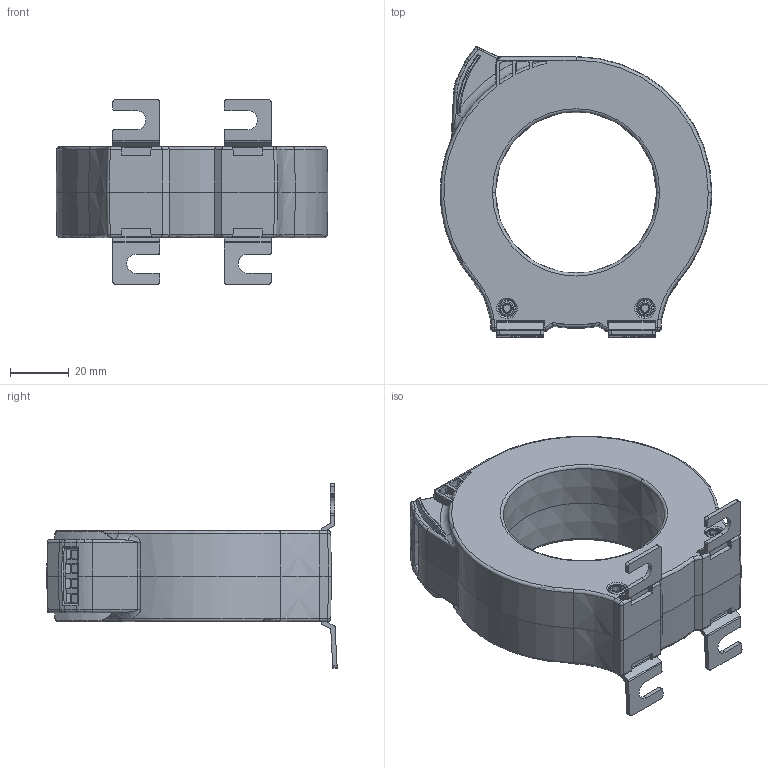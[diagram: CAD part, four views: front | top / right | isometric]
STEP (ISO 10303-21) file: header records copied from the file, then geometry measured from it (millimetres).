
FILE_DESCRIPTION((''),'2;1');
FILE_NAME('WG55_4P_ASM_ASM','2024-09-23T11:38:57',('lesquembri'),(''),'CREO PARAMETRIC BY PTC INC, 2018260','CREO PARAMETRIC BY PTC INC, 2018260','');
FILE_SCHEMA(('AUTOMOTIVE_DESIGN { 1 0 10303 214 1 1 1 1 }'));
Length unit declared in the file: millimetre
Products named in the file (7): CARCASA_SUPERIOR_WG55_4P_1; CARCASA_INFERIOR_WG55_4P_1; MSG04001_1; _WG55_4P_1; WG55_4P_ASM_1_ASM; 908555; WG55_4P_ASM_ASM
Assembly tree (9 placements, depth 3):
  WG55_4P_ASM_ASM
    WG55_4P_ASM_1_ASM
      CARCASA_SUPERIOR_WG55_4P_1
      CARCASA_INFERIOR_WG55_4P_1
      MSG04001_1
      _WG55_4P_1
    908555  x4
Bounding box: 92.64 x 99 x 63 mm (x, y, z)
Volume: 2340.9 mm3; surface area: 68564.2 mm2
Topology: 4 solids, 10 shells, 962 faces, 2590 edges, 1656 vertices
Faces by surface type: plane 466, cone 217, cylinder 167, torus 72, bspline 36, sphere 4
Entity records: 34463 total; most frequent: CARTESIAN_POINT 9652, ORIENTED_EDGE 4633, DIRECTION 4408, EDGE_CURVE 2382, AXIS2_PLACEMENT_3D 1591, COLOUR_RGB 1578, VERTEX_POINT 1524, VECTOR 1226
